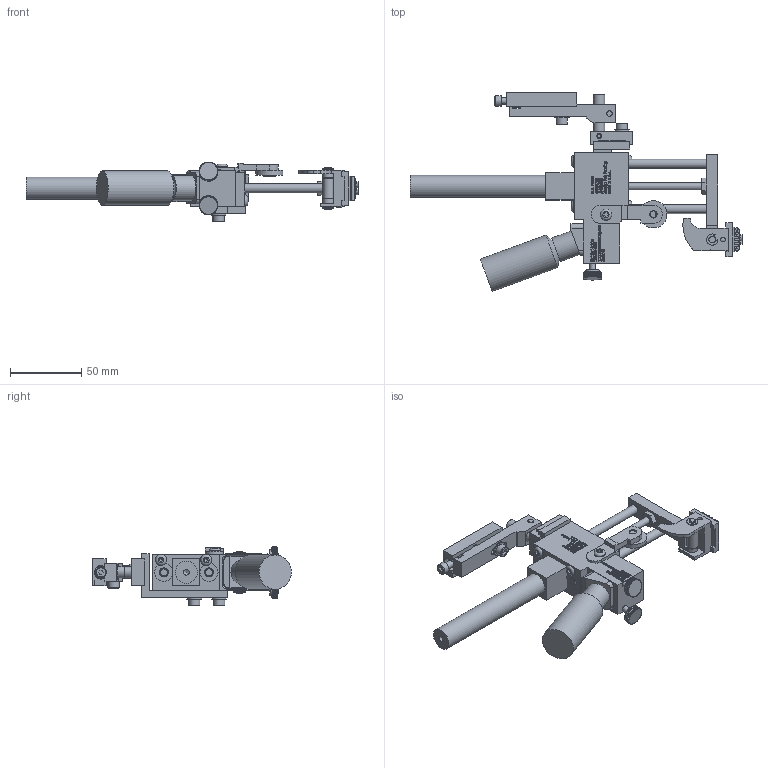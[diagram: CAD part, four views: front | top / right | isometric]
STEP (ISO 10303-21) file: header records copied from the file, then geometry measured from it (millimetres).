
FILE_DESCRIPTION((''),'2;1');
FILE_NAME('C:\Documents and Settings\Ron\My Documents\Inventor\Sprinter Drawing\Machines in Inventor\Model 66\Type\Std\Brkt\Ext\Model 66 Standard type Extended w brkt mod 2012.stp','2012-02-29T08:38:45',('Ron'),(''),'Autodesk Inventor 2011','Autodesk Inventor 2011','');
FILE_SCHEMA(('AUTOMOTIVE_DESIGN { 1 0 10303 214 1 1 1 1 }'));
Length unit declared in the file: inch
Products named in the file (40): Model 66 Standard type Extended w brkt mod 2012; 66 Frame Body Assy Std w brkt; 66 Frame Body; Hexagon Socket Button Head Cap Screw - Inch 8 - 32 x 1/4; Hexagon Socket Head Cap Screw - Inch No. 8 - 32 UNC - 1 1/2; 66 Linear Bearing; 66 Ink; 66 INK BOTTLE; 66 Ink Pad; 66 Wheel Bracket; 8-32x0.25 Hexagon Socket Button Head Cap Screw ANSI/ASME B18.3; 44 Cam Wheel; 44 Wheel Retainer; 10 Ink Resevior Lock Screw; Model 66 Bracket; Model 66 RPB; rpb4; rpb3; rpb-1; rpb2; No. 10-24x0.88 Hexagon socket head cap screw ANSI/ASME B18.3; Type B - Plain Washer (Inch) No. 10 - narrow - Type B; 66 Machine Mounting Pivot Bracket; Pin - Hardened Ground Machine Dowel (Inch) 1/8 x 3/8; Rod Carrier Extended Standard; 66 Rod Carrier; Type A - Hexagon Socket Set Screw - Cup Point - Inch 8-32 UNC x 0.32; 66 PIVOT SHAFT; 66 PIVOT SHAFT LOCKING RING; 23 66 invert block; AS 1112 (4)  - Metric M6; 66 Spring; 19 Rod Carrier Set Screws; 44 & up Removable Marking Head Securing Post; 66 type clip; 66 Marking Head Plate; 66-28; Part # 28 - number 66 stamp; Model 66, std .25 x 4; Standard Extended
Assembly tree (57 placements, depth 5):
  Model 66 Standard type Extended w brkt mod 2012
    66 Frame Body Assy Std w brkt
      66 Frame Body
      Hexagon Socket Button Head Cap Screw - Inch 8 - 32 x 1/4  x4
      Hexagon Socket Head Cap Screw - Inch No. 8 - 32 UNC - 1 1/2  x2
      66 Linear Bearing  x2
      66 Ink
      66 INK BOTTLE
      66 Ink Pad
      66 Wheel Bracket
      8-32x0.25 Hexagon Socket Button Head Cap Screw ANSI/ASME B18.3
      44 Cam Wheel
      44 Wheel Retainer
      10 Ink Resevior Lock Screw  x2
      Model 66 Bracket
        Model 66 RPB
          rpb4
          rpb3
          rpb-1
          rpb2
          No. 10-24x0.88 Hexagon socket head cap screw ANSI/ASME B18.3  x5
          Type B - Plain Washer (Inch) No. 10 - narrow - Type B  x4
          66 Machine Mounting Pivot Bracket
          Pin - Hardened Ground Machine Dowel (Inch) 1/8 x 3/8  x2
    Rod Carrier Extended Standard
      66 Rod Carrier
      Type A - Hexagon Socket Set Screw - Cup Point - Inch 8-32 UNC x 0.32
      66 PIVOT SHAFT
      66 PIVOT SHAFT LOCKING RING  x2
      23 66 invert block
      AS 1112 (4)  - Metric M6
      66 Spring
      19 Rod Carrier Set Screws  x2
      44 & up Removable Marking Head Securing Post
      66 type clip
        66 Marking Head Plate
        44 & up Removable Marking Head Securing Post
        66-28
        Part # 28 - number 66 stamp
      Model 66, std .25 x 4  x2
    Standard Extended
Bounding box: 233.22 x 139.56 x 42.07 mm (x, y, z)
Volume: 166574.6 mm3; surface area: 86533.3 mm2
Topology: 410 solids, 410 shells, 6296 faces, 15436 edges, 9541 vertices
Faces by surface type: plane 4340, bspline 1301, cylinder 554, cone 78, torus 23
Full cylindrical faces by diameter (mm): 1.575 x1, 2.54 x2, 2.642 x2, 3.175 x4, 3.2 x1, 3.302 x12, 3.658 x1, 3.683 x2, 3.962 x12, 4.064 x2, 4.166 x10, 4.318 x2, 4.699 x3, 4.75 x3, 4.775 x2, 4.826 x8, 4.864 x2, 4.917 x1, 5.08 x2, 5.156 x7, 5.182 x1, 5.359 x1, 5.556 x1, 6.325 x2, 6.35 x7, 6.426 x1, 6.604 x1, 6.858 x2, 7.353 x4, 7.62 x2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
Entity records: 149951 total; most frequent: CARTESIAN_POINT 44916, ORIENTED_EDGE 23304, DIRECTION 16685, EDGE_CURVE 11652, VECTOR 8265, LINE 8265, VERTEX_POINT 7468, EDGE_LOOP 5198
